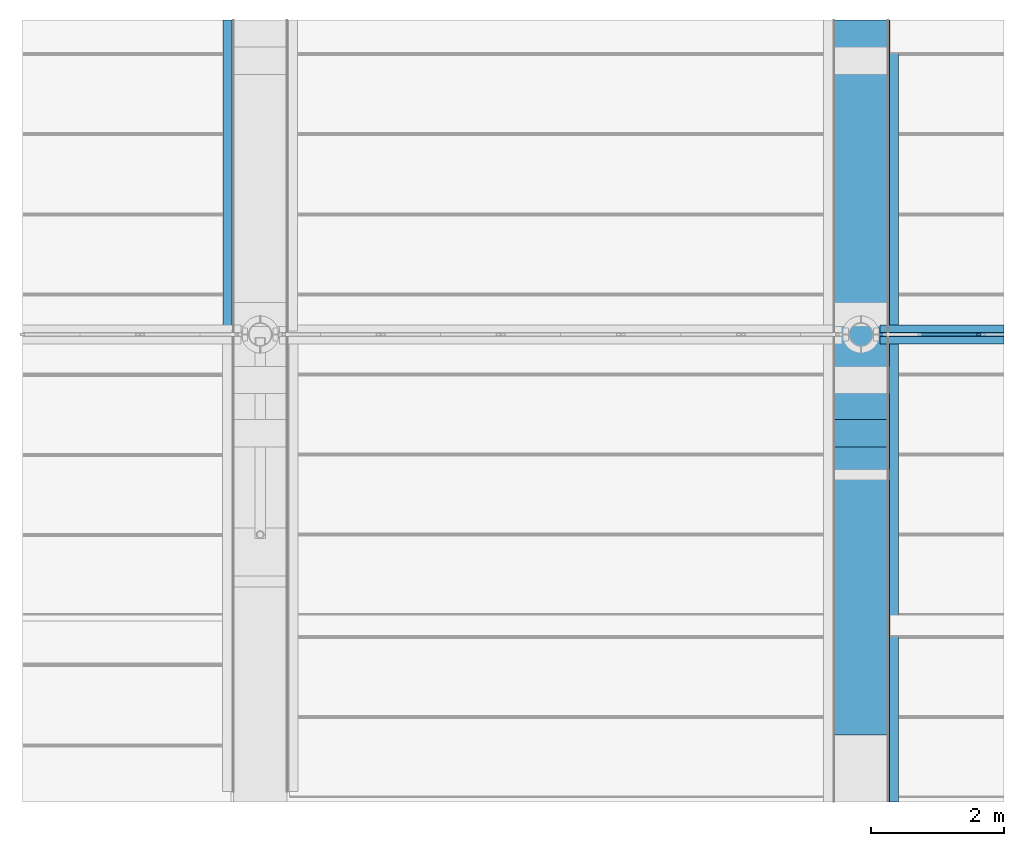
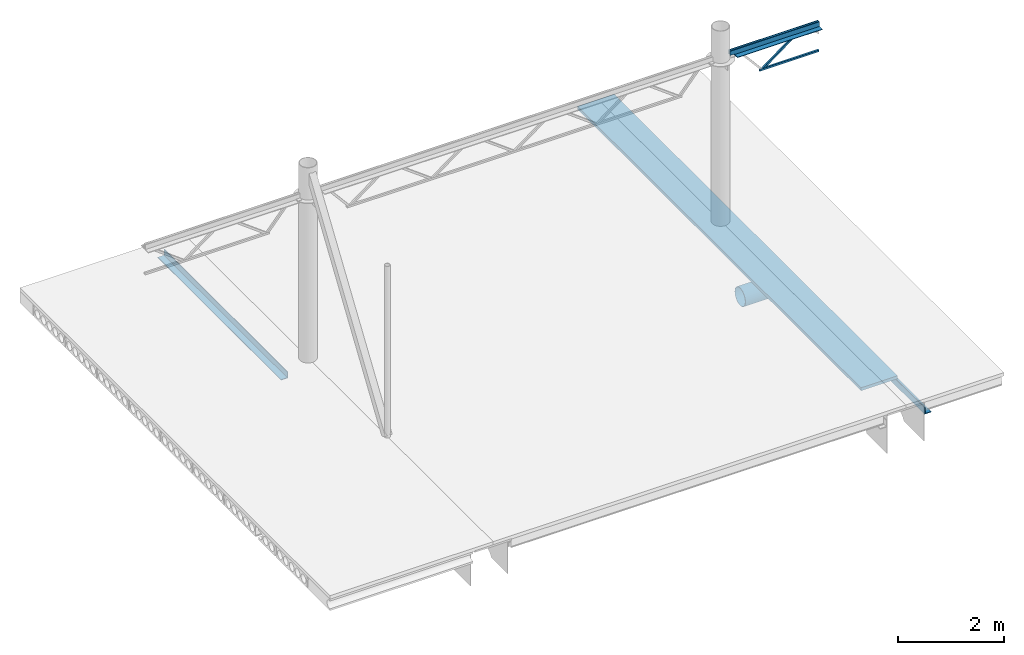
# One storey, part 8 of 21: 9 beams.
"""IFC2X3 building model written with IfcOpenShell, lengths in millimetres."""

from ifc_helpers import new_model, entity, si_unit, converted_unit, derived_unit, direction, frame, origin_with_axes, place, context, subcontext, project, spatial, faceted_brep, material, type_object, element, save


model = new_model("IFC2X3")

# Units and contexts
model_context = context("Model", 3, precision=0.01, world=frame((0.0, 4.29681676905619e-09, 0.0)), true_north=direction((4.01073788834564e-13, 1.0)))
plan_context = context("Plan", 3, precision=0.01, world=frame((0.0, 4.29681676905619e-09, 0.0)), true_north=direction((4.01073788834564e-13, 1.0)))
body_context = subcontext(model_context, "Body", "Model", "MODEL_VIEW")
ifc_project = project(units=[converted_unit("PLANEANGLEUNIT", "DEGREE", entity("IfcPositiveLengthMeasure", 0.0174532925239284), si_unit("PLANEANGLEUNIT", "RADIAN"), dimensions=[0, 0, 0, 0, 0, 0, 0]), si_unit("AREAUNIT", "SQUARE_METRE"), si_unit("LENGTHUNIT", "METRE", prefix="MILLI"), si_unit("MASSUNIT", "GRAM", prefix="KILO"), si_unit("POWERUNIT", "WATT"), si_unit("PRESSUREUNIT", "PASCAL", prefix="KILO"), si_unit("FORCEUNIT", "NEWTON", prefix="KILO"), si_unit("ELECTRICVOLTAGEUNIT", "VOLT"), si_unit("ELECTRICCURRENTUNIT", "AMPERE"), si_unit("THERMODYNAMICTEMPERATUREUNIT", "DEGREE_CELSIUS"), si_unit("TIMEUNIT", "SECOND"), si_unit("VOLUMEUNIT", "CUBIC_METRE"), derived_unit("LINEARVELOCITYUNIT", [(si_unit("LENGTHUNIT", "METRE"), 1), (si_unit("TIMEUNIT", "SECOND"), -1)]), derived_unit("VOLUMETRICFLOWRATEUNIT", [(si_unit("VOLUMEUNIT", "CUBIC_METRE"), 1), (si_unit("TIMEUNIT", "SECOND"), -1)]), derived_unit("THERMALTRANSMITTANCEUNIT", [(si_unit("POWERUNIT", "WATT"), 1), (si_unit("THERMODYNAMICTEMPERATUREUNIT", "KELVIN"), -1), (si_unit("AREAUNIT", "SQUARE_METRE"), -1)]), derived_unit("SOUNDPRESSUREUNIT", [(si_unit("PRESSUREUNIT", "PASCAL"), 1)])], contexts=[model_context, plan_context])

# Site, building, storey
site_placement = place(None, frame((0.0, -4.29681676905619e-09, 0.0), z_axis=(0.0, 0.0, 1.0), x_axis=(1.0, 0.0, 0.0)))
site = spatial("IfcSite", under=ifc_project, at=site_placement, Name="Gardermoen", CompositionType="ELEMENT")
building_placement = place(site_placement, frame((0.0, 4.29681676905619e-09, 0.0), z_axis=(0.0, 0.0, 1.0), x_axis=(1.0, 0.0, 0.0)))
building = spatial("IfcBuilding", under=site, at=building_placement, Name="TS", CompositionType="ELEMENT")
storey_placement = place(building_placement, origin_with_axes())
storey = spatial("IfcBuildingStorey", under=building, at=storey_placement, Name="F", CompositionType="ELEMENT", Elevation=0.0)

# Beams
beam_type_1 = type_object("IfcBeamType", Name="L120*12", PredefinedType="NOTDEFINED")
beam_1_placement = place(storey_placement, frame((735812.499965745, 441419.999999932, 214681.000071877), z_axis=(0.0, -1.0, 0.0), x_axis=(-0.999999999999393, 0.0, 1.10199977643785e-06)))
element("IfcBeam", 1, at=beam_1_placement, inside=storey, type_object=beam_type_1, Name="STÅLBJELKE", ObjectType="L120*12", context=body_context, shape_type="Brep", body=[
    faceted_brep([(8524.99993152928, 59.9999999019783, 60.0), (8524.99993152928, 59.9999999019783, -60.0), (8524.99996813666, 38.014185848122, -60.0), (8524.99996813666, 38.014185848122, -48.0), (8524.99995152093, 47.9999999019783, -48.0), (8524.99995152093, 47.9999999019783, 60.0), (8625.00000020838, 38.0143522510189, -60.0), (8624.99996813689, 38.0143522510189, -48.0), (6669.91024540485, -60.0000000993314, -60.0), (6669.91024540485, -60.0000000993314, -47.9999999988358), (8625.00000020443, -60.0000000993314, -48.0), (8625.00000020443, -60.0000000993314, -60.0), (6669.90994786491, 47.9999999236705, -48.0), (6669.91012638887, 47.9999999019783, 60.0), (6669.9099322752, 59.9999999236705, 60.0), (6669.91011316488, 59.9999999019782, -60.0), (6669.90994786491, 59.9999999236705, -60.0), (6669.90994786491, 59.9999999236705, 60.0), (6669.90994786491, 47.9999999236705, 60.0), (6669.90994786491, -60.0000000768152, -47.9999999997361), (6669.90994786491, -60.0000000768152, -59.9999999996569)], [[[0, 1, 2, 3, 4, 5]], [[3, 2, 6, 7]], [[8, 9, 10, 11]], [[9, 12, 4, 3, 7, 10]], [[12, 13, 5, 4]], [[13, 14, 0, 5]], [[14, 15, 1, 0]], [[15, 8, 11, 6, 2, 1]], [[7, 6, 11, 10]], [[16, 17, 18, 12, 19, 20]]], orient=[[False], [False], [False], [False], [False], [False], [False], [False], [False], [False]]),
])
beam_2_placement = place(storey_placement, frame((735812.499965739, 441579.999999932, 214681.000071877), z_axis=(1.57099997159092e-06, 0.0, 0.999999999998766), x_axis=(-0.999999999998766, 0.0, 1.57099997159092e-06)))
element("IfcBeam", 2, at=beam_2_placement, inside=storey, type_object=beam_type_1, Name="STÅLBJELKE", ObjectType="L120*12", context=body_context, shape_type="Brep", body=[
    faceted_brep([(8524.99996813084, 48.0, -38.014185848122), (8524.99996813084, 60.0, -38.014185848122), (8524.99993152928, 59.9999999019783, -60.0), (8524.99993152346, -60.0, -59.9999999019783), (8524.99995151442, -60.0, -47.9999999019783), (8524.99995152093, 47.9999999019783, -48.0), (8625.00000020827, 60.0, -38.0143522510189), (8624.99996813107, 48.0, -38.0143522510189), (6669.91027354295, 48.0, 60.0000000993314), (6669.91027354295, 60.0, 60.0000000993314), (8625.00000020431, 60.0, 60.0000000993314), (8625.00000020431, 48.0, 60.0000000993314), (6669.90984937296, 59.9999999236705, -60.0), (6669.91008502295, -60.0, -59.9999999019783), (6669.90984937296, -60.0, -47.9999999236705), (6669.91010387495, 48.0000000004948, -48.0), (6669.91050919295, 47.9999999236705, -48.0), (6669.91050919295, -60.0, -47.9999999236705), (6669.91050919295, -60.0, -59.9999999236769), (6669.91050919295, 59.9999999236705, -60.0), (6669.91050919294, 60.0, 60.000000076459), (6669.91050919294, 48.0, 60.000000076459)], [[[0, 1, 2, 3, 4, 5]], [[6, 1, 0, 7]], [[8, 9, 10, 11]], [[6, 7, 11, 10]], [[9, 12, 2, 1, 6, 10]], [[12, 13, 3, 2]], [[13, 14, 4, 3]], [[14, 15, 5, 4]], [[15, 8, 11, 7, 0, 5]], [[16, 17, 18, 19, 20, 21]]], orient=[[False], [False], [False], [False], [False], [False], [False], [False], [False], [False]]),
])
ifc_material = material(Name="STEEL/S355")
beam_type_2 = type_object("IfcBeamType", Name="RHS40*4", PredefinedType="NOTDEFINED")
beam_3_placement = place(storey_placement, frame((728800.500033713, 441499.999999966, 214725.999924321), z_axis=(0.597135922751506, 0.0, -0.802140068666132), x_axis=(-0.802140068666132, 0.0, -0.597135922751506)))
element("IfcBeam", 3, at=beam_3_placement, inside=storey, type_object=beam_type_2, material=ifc_material, Name="STÅLBJELKE", ObjectType="RHS40*4", context=body_context, shape_type="Brep", body=[
    faceted_brep([(63.3368514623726, 16.0, -15.9999999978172), (63.3368514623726, -16.0, -15.9999999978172), (1101.64711034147, -16.0, -15.999999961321), (1101.64711034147, 16.0, -15.999999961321), (20.3508557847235, -16.0, 16.0000000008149), (1058.66111466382, -16.0, 16.0000000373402), (20.3508557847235, 16.0, 16.0000000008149), (1058.66111466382, 16.0, 16.0000000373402), (68.7101009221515, 20.0, -19.9999999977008), (14.9776063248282, 20.0, 20.0000000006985), (1053.28786520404, 20.0, 20.0000000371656), (1107.02035980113, 20.0, -19.9999999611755), (14.9776063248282, -20.0, 20.0000000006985), (1053.28786520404, -20.0, 20.0000000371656), (68.7101009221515, -20.0, -19.9999999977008), (1107.02035980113, -20.0, -19.9999999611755)], [[[0, 1, 2, 3]], [[1, 4, 5, 2]], [[4, 6, 7, 5]], [[6, 0, 3, 7]], [[8, 9, 10, 11]], [[9, 12, 13, 10]], [[12, 14, 15, 13]], [[14, 8, 11, 15]], [[13, 15, 11, 10], [5, 7, 3, 2]], [[14, 12, 9, 8], [6, 4, 1, 0]]]),
])
beam_4_placement = place(storey_placement, frame((735812.500033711, 441499.999999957, 214720.99992434), z_axis=(-1.46900000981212e-06, 0.0, -0.999999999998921), x_axis=(-0.999999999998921, 0.0, 1.46900000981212e-06)))
element("IfcBeam", 4, at=beam_4_placement, inside=storey, type_object=beam_type_2, Name="STÅLBJELKE", ObjectType="RHS40*4", context=body_context, shape_type="Brep", body=[
    faceted_brep([(6669.91027075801, -16.0000000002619, -16.0000000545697), (6669.91027075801, 16.0, -16.0000000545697), (8625.00000022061, 16.0, -16.0000000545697), (8625.00000022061, -16.0, -16.0000000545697), (6669.90999752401, -15.9999999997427, 15.9999999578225), (8625.00000022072, -16.0, 15.9999999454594), (6669.91022375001, 16.0000000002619, 15.9999999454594), (8625.00000022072, 16.0, 15.9999999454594), (6669.90999752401, 20.0, 19.9999999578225), (6669.90999752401, 20.0, -20.0000000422), (8625.00000022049, 20.0, -20.0000000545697), (8625.00000022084, 20.0, 19.9999999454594), (6669.91021787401, -20.0, 19.9999999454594), (8625.00000022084, -20.0, 19.9999999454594), (6669.90999752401, -20.0, -20.0000000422), (8625.00000022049, -20.0, -20.0000000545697), (6669.90999752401, -19.9999999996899, 19.9999999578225), (6669.90999752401, 16.0000000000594, 15.9999999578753), (6669.90999752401, 16.0, -16.0000000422), (6669.90999752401, -16.0000000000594, -16.0000000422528)], [[[0, 1, 2, 3]], [[4, 0, 3, 5]], [[6, 4, 5, 7]], [[1, 6, 7, 2]], [[8, 9, 10, 11]], [[12, 8, 11, 13]], [[14, 12, 13, 15]], [[9, 14, 15, 10]], [[11, 10, 15, 13], [3, 2, 7, 5]], [[16, 14, 9, 8], [4, 17, 18, 19]]], orient=[[False], [False], [False], [False], [False], [False], [False], [False], [False, False], [False, False]]),
])
beam_5_placement = place(storey_placement, frame((735153.499816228, 441499.999999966, 214061.000975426), z_axis=(-1.46900000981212e-06, 0.0, -0.999999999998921), x_axis=(-0.999999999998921, 0.0, 1.46900000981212e-06)))
element("IfcBeam", 5, at=beam_5_placement, inside=storey, type_object=beam_type_2, Name="STÅLBJELKE", ObjectType="RHS40*4", context=body_context, shape_type="Brep", body=[
    faceted_brep([(6010.91005327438, -16.0000000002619, -16.000000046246), (6010.91005327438, 16.0, -16.000000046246), (7307.00000023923, 16.0, -16.000000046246), (7307.00000023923, -16.0, -16.000000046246), (6010.90978004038, -15.9999999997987, 15.9999999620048), (7307.00000023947, -16.0, 15.9999999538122), (6010.91000626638, 16.0000000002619, 15.9999999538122), (7307.00000023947, 16.0, 15.9999999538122), (6010.90978004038, 20.0, 19.9999999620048), (6010.90978004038, 20.0, -20.000000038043), (7307.00000023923, 20.0, -20.000000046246), (7307.00000023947, 20.0, 19.9999999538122), (6010.91000039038, -20.0, 19.9999999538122), (7307.00000023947, -20.0, 19.9999999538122), (6010.90978004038, -20.0, -20.000000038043), (7307.00000023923, -20.0, -20.000000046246), (6010.90978004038, -19.9999999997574, 19.9999999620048), (6010.90978004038, 16.0000000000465, 15.9999999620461), (6010.90978004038, 16.0, -16.000000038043), (6010.90978004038, -16.0000000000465, -16.0000000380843)], [[[0, 1, 2, 3]], [[4, 0, 3, 5]], [[6, 4, 5, 7]], [[1, 6, 7, 2]], [[8, 9, 10, 11]], [[12, 8, 11, 13]], [[14, 12, 13, 15]], [[9, 14, 15, 10]], [[11, 10, 15, 13], [3, 2, 7, 5]], [[16, 14, 9, 8], [4, 17, 18, 19]]], orient=[[False], [False], [False], [False], [False], [False], [False], [False], [False, False], [False, False]]),
])
beam_type_3 = type_object("IfcBeamType", Name="RØR406.4X6.3", PredefinedType="NOTDEFINED")
beam_6_placement = place(storey_placement, frame((727427.0, 440020.0, 210175.0), z_axis=(0.0, 0.0, 1.0), x_axis=(-0.999999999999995, -9.99999902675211e-08, 0.0)))
element("IfcBeam", 6, at=beam_6_placement, inside=storey, type_object=beam_type_3, material=ifc_material, Name="STÅLBJELKE", ObjectType="RØR406.4X6.3", context=body_context, shape_type="Brep", body=[
    faceted_brep([(0.0, -196.900000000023, 0.0), (0.0, -193.908646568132, 34.1913261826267), (854.0, -193.908646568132, 34.1913261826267), (854.0, -196.900000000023, 0.0), (0.0, -185.025477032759, 67.3437662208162), (854.0, -185.025477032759, 67.3437662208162), (0.0, -170.520402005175, 98.4500000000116), (854.0, -170.520402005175, 98.4500000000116), (0.0, -150.834150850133, 126.564880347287), (854.0, -150.834150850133, 126.564880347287), (0.0, -126.564880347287, 150.834150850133), (854.0, -126.564880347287, 150.834150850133), (0.0, -98.4500000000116, 170.520402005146), (854.0, -98.4500000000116, 170.520402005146), (0.0, -67.3437662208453, 185.025477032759), (854.0, -67.3437662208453, 185.025477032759), (0.0, -34.1913261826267, 193.908646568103), (854.0, -34.1913261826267, 193.908646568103), (0.0, 0.0, 196.899999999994), (854.0, 0.0, 196.899999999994), (0.0, 34.1913261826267, 193.908646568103), (854.0, 34.1913261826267, 193.908646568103), (0.0, 67.3437662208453, 185.025477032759), (854.0, 67.3437662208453, 185.025477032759), (0.0, 98.4500000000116, 170.520402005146), (854.0, 98.4500000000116, 170.520402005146), (0.0, 126.564880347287, 150.834150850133), (854.0, 126.564880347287, 150.834150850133), (0.0, 150.834150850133, 126.564880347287), (854.0, 150.834150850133, 126.564880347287), (0.0, 170.520402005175, 98.4500000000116), (854.0, 170.520402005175, 98.4500000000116), (0.0, 185.025477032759, 67.3437662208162), (854.0, 185.025477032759, 67.3437662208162), (0.0, 193.908646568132, 34.1913261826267), (854.0, 193.908646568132, 34.1913261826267), (0.0, 196.900000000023, 0.0), (854.0, 196.900000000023, 0.0), (0.0, 193.908646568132, -34.1913261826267), (854.0, 193.908646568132, -34.1913261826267), (0.0, 185.025477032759, -67.3437662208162), (854.0, 185.025477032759, -67.3437662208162), (0.0, 170.520402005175, -98.4500000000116), (854.0, 170.520402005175, -98.4500000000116), (0.0, 150.834150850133, -126.564880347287), (854.0, 150.834150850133, -126.564880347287), (0.0, 126.564880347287, -150.834150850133), (854.0, 126.564880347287, -150.834150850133), (0.0, 98.4500000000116, -170.520402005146), (854.0, 98.4500000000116, -170.520402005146), (0.0, 67.3437662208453, -185.025477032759), (854.0, 67.3437662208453, -185.025477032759), (0.0, 34.1913261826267, -193.908646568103), (854.0, 34.1913261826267, -193.908646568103), (0.0, 0.0, -196.899999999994), (854.0, 0.0, -196.899999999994), (0.0, -34.1913261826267, -193.908646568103), (854.0, -34.1913261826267, -193.908646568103), (0.0, -67.3437662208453, -185.025477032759), (854.0, -67.3437662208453, -185.025477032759), (0.0, -98.4500000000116, -170.520402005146), (854.0, -98.4500000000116, -170.520402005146), (0.0, -126.564880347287, -150.834150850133), (854.0, -126.564880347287, -150.834150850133), (0.0, -150.834150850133, -126.564880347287), (854.0, -150.834150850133, -126.564880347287), (0.0, -170.520402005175, -98.4500000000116), (854.0, -170.520402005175, -98.4500000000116), (0.0, -185.025477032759, -67.3437662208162), (854.0, -185.025477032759, -67.3437662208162), (0.0, -193.908646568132, -34.1913261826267), (854.0, -193.908646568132, -34.1913261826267), (0.0, -203.200000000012, 0.0), (0.0, -200.112935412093, -35.2853097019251), (854.0, -200.112935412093, -35.2853097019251), (854.0, -203.200000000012, 0.0), (0.0, -190.945540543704, -69.4984931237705), (854.0, -190.945540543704, -69.4984931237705), (0.0, -175.976362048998, -101.600000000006), (854.0, -175.976362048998, -101.600000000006), (0.0, -155.660230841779, -130.614442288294), (854.0, -155.660230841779, -130.614442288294), (0.0, -130.614442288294, -155.660230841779), (854.0, -130.614442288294, -155.660230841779), (0.0, -101.599999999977, -175.976362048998), (854.0, -101.599999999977, -175.976362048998), (0.0, -69.4984931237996, -190.945540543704), (854.0, -69.4984931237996, -190.945540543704), (0.0, -35.2853097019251, -200.112935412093), (854.0, -35.2853097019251, -200.112935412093), (0.0, 0.0, -203.200000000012), (854.0, 0.0, -203.200000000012), (0.0, 35.2853097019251, -200.112935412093), (854.0, 35.2853097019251, -200.112935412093), (0.0, 69.4984931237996, -190.945540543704), (854.0, 69.4984931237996, -190.945540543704), (0.0, 101.599999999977, -175.976362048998), (854.0, 101.599999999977, -175.976362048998), (0.0, 130.614442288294, -155.660230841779), (854.0, 130.614442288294, -155.660230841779), (0.0, 155.660230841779, -130.614442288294), (854.0, 155.660230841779, -130.614442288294), (0.0, 175.976362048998, -101.600000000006), (854.0, 175.976362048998, -101.600000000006), (0.0, 190.945540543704, -69.4984931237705), (854.0, 190.945540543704, -69.4984931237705), (0.0, 200.112935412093, -35.2853097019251), (854.0, 200.112935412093, -35.2853097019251), (0.0, 203.200000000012, 0.0), (854.0, 203.200000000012, 0.0), (0.0, 200.112935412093, 35.2853097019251), (854.0, 200.112935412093, 35.2853097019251), (0.0, 190.945540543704, 69.4984931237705), (854.0, 190.945540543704, 69.4984931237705), (0.0, 175.976362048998, 101.600000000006), (854.0, 175.976362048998, 101.600000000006), (0.0, 155.660230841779, 130.614442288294), (854.0, 155.660230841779, 130.614442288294), (0.0, 130.614442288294, 155.660230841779), (854.0, 130.614442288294, 155.660230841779), (0.0, 101.599999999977, 175.976362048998), (854.0, 101.599999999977, 175.976362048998), (0.0, 69.4984931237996, 190.945540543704), (854.0, 69.4984931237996, 190.945540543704), (0.0, 35.2853097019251, 200.112935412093), (854.0, 35.2853097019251, 200.112935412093), (0.0, 0.0, 203.200000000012), (854.0, 0.0, 203.200000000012), (0.0, -35.2853097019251, 200.112935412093), (854.0, -35.2853097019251, 200.112935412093), (0.0, -69.4984931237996, 190.945540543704), (854.0, -69.4984931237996, 190.945540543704), (0.0, -101.599999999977, 175.976362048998), (854.0, -101.599999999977, 175.976362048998), (0.0, -130.614442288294, 155.660230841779), (854.0, -130.614442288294, 155.660230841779), (0.0, -155.660230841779, 130.614442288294), (854.0, -155.660230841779, 130.614442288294), (0.0, -175.976362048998, 101.600000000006), (854.0, -175.976362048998, 101.600000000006), (0.0, -190.945540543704, 69.4984931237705), (854.0, -190.945540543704, 69.4984931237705), (0.0, -200.112935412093, 35.2853097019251), (854.0, -200.112935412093, 35.2853097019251)], [[[0, 1, 2, 3]], [[1, 4, 5, 2]], [[4, 6, 7, 5]], [[6, 8, 9, 7]], [[8, 10, 11, 9]], [[10, 12, 13, 11]], [[12, 14, 15, 13]], [[14, 16, 17, 15]], [[16, 18, 19, 17]], [[18, 20, 21, 19]], [[20, 22, 23, 21]], [[22, 24, 25, 23]], [[24, 26, 27, 25]], [[26, 28, 29, 27]], [[28, 30, 31, 29]], [[30, 32, 33, 31]], [[32, 34, 35, 33]], [[34, 36, 37, 35]], [[36, 38, 39, 37]], [[38, 40, 41, 39]], [[40, 42, 43, 41]], [[42, 44, 45, 43]], [[44, 46, 47, 45]], [[46, 48, 49, 47]], [[48, 50, 51, 49]], [[50, 52, 53, 51]], [[52, 54, 55, 53]], [[54, 56, 57, 55]], [[56, 58, 59, 57]], [[58, 60, 61, 59]], [[60, 62, 63, 61]], [[62, 64, 65, 63]], [[64, 66, 67, 65]], [[66, 68, 69, 67]], [[68, 70, 71, 69]], [[70, 0, 3, 71]], [[72, 73, 74, 75]], [[73, 76, 77, 74]], [[76, 78, 79, 77]], [[78, 80, 81, 79]], [[80, 82, 83, 81]], [[82, 84, 85, 83]], [[84, 86, 87, 85]], [[86, 88, 89, 87]], [[88, 90, 91, 89]], [[90, 92, 93, 91]], [[92, 94, 95, 93]], [[94, 96, 97, 95]], [[96, 98, 99, 97]], [[98, 100, 101, 99]], [[100, 102, 103, 101]], [[102, 104, 105, 103]], [[104, 106, 107, 105]], [[106, 108, 109, 107]], [[108, 110, 111, 109]], [[110, 112, 113, 111]], [[112, 114, 115, 113]], [[114, 116, 117, 115]], [[116, 118, 119, 117]], [[118, 120, 121, 119]], [[120, 122, 123, 121]], [[122, 124, 125, 123]], [[124, 126, 127, 125]], [[126, 128, 129, 127]], [[128, 130, 131, 129]], [[130, 132, 133, 131]], [[132, 134, 135, 133]], [[134, 136, 137, 135]], [[136, 138, 139, 137]], [[138, 140, 141, 139]], [[140, 142, 143, 141]], [[142, 72, 75, 143]], [[77, 79, 81, 83, 85, 87, 89, 91, 93, 95, 97, 99, 101, 103, 105, 107, 109, 111, 113, 115, 117, 119, 121, 123, 125, 127, 129, 131, 133, 135, 137, 139, 141, 143, 75, 74], [5, 7, 9, 11, 13, 15, 17, 19, 21, 23, 25, 27, 29, 31, 33, 35, 37, 39, 41, 43, 45, 47, 49, 51, 53, 55, 57, 59, 61, 63, 65, 67, 69, 71, 3, 2]], [[142, 140, 138, 136, 134, 132, 130, 128, 126, 124, 122, 120, 118, 116, 114, 112, 110, 108, 106, 104, 102, 100, 98, 96, 94, 92, 90, 88, 86, 84, 82, 80, 78, 76, 73, 72], [70, 68, 66, 64, 62, 60, 58, 56, 54, 52, 50, 48, 46, 44, 42, 40, 38, 36, 34, 32, 30, 28, 26, 24, 22, 20, 18, 16, 14, 12, 10, 8, 6, 4, 1, 0]]]),
])
beam_type_4 = type_object("IfcBeamType", Name="L150*15", PredefinedType="NOTDEFINED")
beam_7_placement = place(storey_placement, frame((717517.0, 457700.0, 210590.0), z_axis=(0.0, 0.0, 1.0), x_axis=(0.0, -1.0, 0.0)))
element("IfcBeam", 7, at=beam_7_placement, inside=storey, type_object=beam_type_4, Name="STÅLBJELKE", ObjectType="L150*15", context=body_context, shape_type="Brep", body=[
    faceted_brep([(11488.5755361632, 75.0, 75.0), (11488.5755361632, 75.0, -75.0), (16150.0, 75.0, -75.0), (16150.0, 75.0, 75.0), (11488.5755361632, 60.0, 75.0), (16150.0, 60.0, 75.0), (11488.5755361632, 60.0, -59.9999999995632), (16150.0, 60.0, -60.0), (11488.5755361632, -75.0, -60.0), (16150.0, -75.0, -60.0), (11488.5755361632, -75.0000000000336, -75.0), (16150.0, -75.0, -75.0)], [[[0, 1, 2, 3]], [[4, 0, 3, 5]], [[6, 4, 5, 7]], [[8, 6, 7, 9]], [[10, 8, 9, 11]], [[1, 10, 11, 2]], [[3, 2, 11, 9, 7, 5]], [[4, 6, 8, 10, 1, 0]]], orient=[[False], [False], [False], [False], [False], [False], [False], [False]]),
])
beam_8_placement = place(storey_placement, frame((727485.0, 434100.0, 210590.0), z_axis=(0.0, 0.0, 1.0), x_axis=(0.0, 1.0, 0.0)))
element("IfcBeam", 8, at=beam_8_placement, inside=storey, type_object=beam_type_4, Name="STÅLBJELKE", ObjectType="L150*15", context=body_context, shape_type="Brep", body=[
    faceted_brep([(12111.4244638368, 75.0, -75.0), (12111.4244638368, 75.0, 75.0), (399.007988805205, 75.0, 75.0), (399.007988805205, 75.0, -75.0), (12111.4244638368, 60.0, 75.0), (399.007988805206, 60.0, 75.0), (12111.4244638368, 60.0, -59.9999999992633), (399.007988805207, 60.0, -59.9999999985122), (12111.4244638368, -75.0, -60.0), (399.007988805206, -75.0, -60.0), (12111.4244638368, -75.0000000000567, -75.0), (399.007988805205, -75.0000000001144, -75.0)], [[[0, 1, 2, 3]], [[1, 4, 5, 2]], [[4, 6, 7, 5]], [[6, 8, 9, 7]], [[8, 10, 11, 9]], [[10, 0, 3, 11]], [[10, 8, 6, 4, 1, 0]], [[5, 7, 9, 11, 3, 2]]], orient=[[False], [False], [False], [False], [False], [False], [False], [False]]),
])
beam_type_5 = type_object("IfcBeamType", Name="800*70", PredefinedType="NOTDEFINED")
beam_9_placement = place(storey_placement, frame((727000.0, 435500.0, 210770.0), z_axis=(-1.0, 0.0, 0.0), x_axis=(0.0, 1.0, 0.0)))
element("IfcBeam", 9, at=beam_9_placement, inside=storey, type_object=beam_type_5, Name="STÅLBJELKE", ObjectType="800*70", context=body_context, shape_type="Brep", body=[
    faceted_brep([(10711.4242495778, 35.0, -400.0), (10711.4242495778, 35.0, 400.0), (0.0, 35.0, 400.0), (0.0, 35.0, -400.0), (10711.4242495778, -35.0, 400.0), (0.0, -35.0, 400.0), (10711.4242495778, -35.0, -400.0), (0.0, -35.0, -400.0)], [[[0, 1, 2, 3]], [[1, 4, 5, 2]], [[4, 6, 7, 5]], [[6, 0, 3, 7]], [[3, 2, 5, 7]], [[6, 4, 1, 0]]], orient=[[False], [False], [False], [False], [False], [False]]),
])

save(model, "model.ifc")
